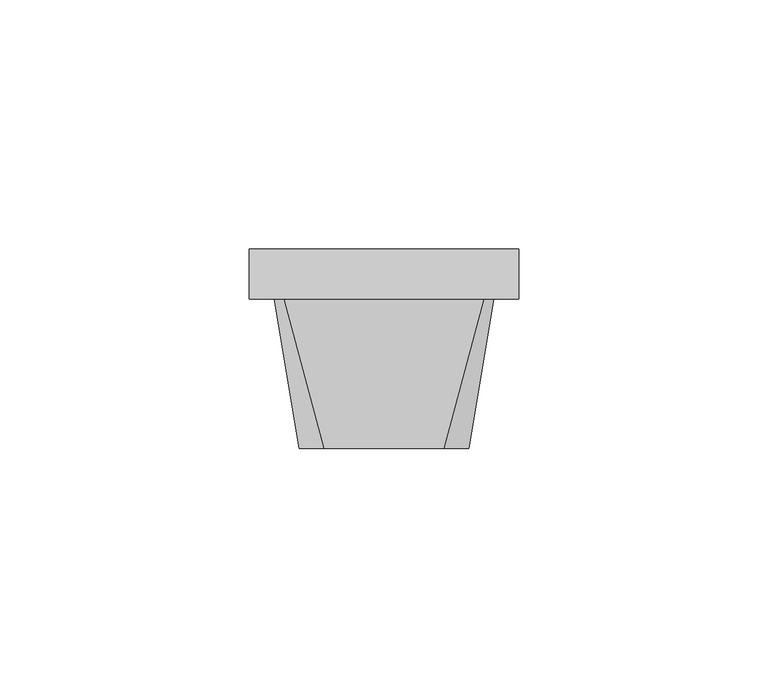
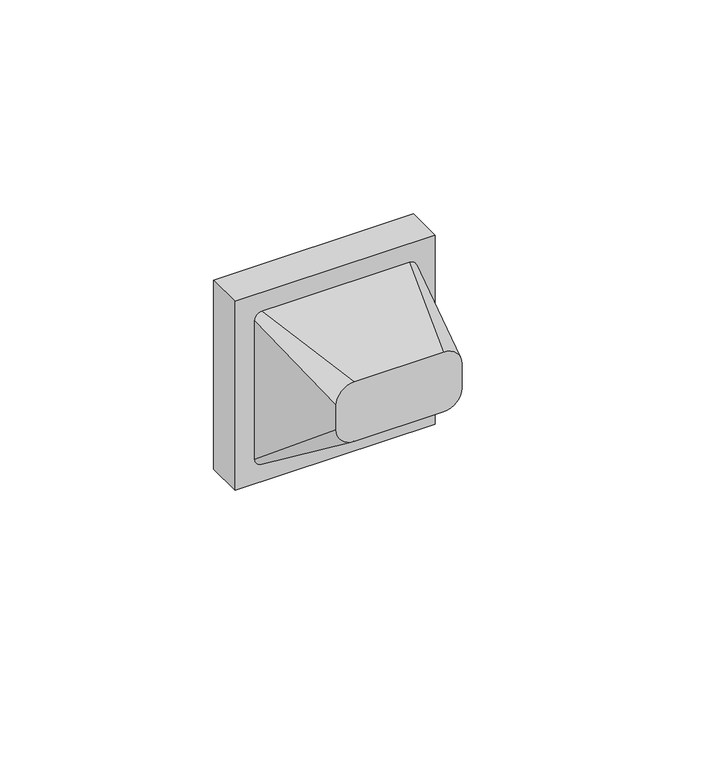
"""IFC4 building model written with IfcOpenShell, lengths in millimetres: proxy geometry, IEK_Brite_Механизм розетки 230В : USB A+A_РЮ10-1-БрА."""

from ifc_helpers import new_model, si_unit, frame, origin, place, context, project, spatial, polyline, circle_curve, outline, extrude, faceted_brep, source, transform, mapped, element, save
from ifc_brep_helpers import plane_surface, revolved_surface, spline_surface, advanced_brep


def electrical_fixtures_b7a49094(model_context):
    return source(origin(), model_context, "Body", "SolidModel", [
        extrude(outline(polyline([(14.9097787, 8.332744), (16.0629243, 8.332744), (16.0629243, 1.9), (14.9097787, 1.9), (14.9097787, 8.332744)])), frame((0.0, 0.0, -0.6072496), z_axis=(0.0, 0.0, 1.0), x_axis=(1.0, 0.0, 0.0)), (0.0, 0.0, 1.0), 0.9632194),
        extrude(outline(polyline([(12.3817288, 8.332744), (13.5348744, 8.332744), (13.5348744, 1.9), (12.3817288, 1.9), (12.3817288, 8.332744)])), frame((0.0, 0.0, -0.6072496), z_axis=(0.0, 0.0, 1.0), x_axis=(1.0, 0.0, 0.0)), (0.0, 0.0, 1.0), 0.9632194),
        extrude(outline(polyline([(9.9097787, 8.332744), (11.0629243, 8.332744), (11.0629243, 1.9), (9.9097787, 1.9), (9.9097787, 8.332744)])), frame((0.0, 0.0, -0.6072496), z_axis=(0.0, 0.0, 1.0), x_axis=(1.0, 0.0, 0.0)), (0.0, 0.0, 1.0), 0.9632194),
        extrude(outline(polyline([(7.3817288, 8.332744), (8.5348744, 8.332744), (8.5348744, 1.9), (7.3817288, 1.9), (7.3817288, 8.332744)])), frame((0.0, 0.0, -0.6072496), z_axis=(0.0, 0.0, 1.0), x_axis=(1.0, 0.0, 0.0)), (0.0, 0.0, 1.0), 0.9632194),
        extrude(outline(polyline([(17.5539374, 1.865818), (6.205143, 1.865818), (6.205143, 8.6493558), (17.5539374, 8.6493558), (17.5539374, 1.865818)])), frame((0.0, 0.0, -0.9635751), z_axis=(0.0, 0.0, 1.0), x_axis=(1.0, 0.0, 0.0)), (0.0, 0.0, 1.0), 1.1632949),
        extrude(outline(polyline([(-16.0629243, 8.332744), (-14.9097787, 8.332744), (-14.9097787, 1.9), (-16.0629243, 1.9), (-16.0629243, 8.332744)])), frame((0.0, 0.0, -0.6072496), z_axis=(0.0, 0.0, 1.0), x_axis=(1.0, 0.0, 0.0)), (0.0, 0.0, 1.0), 0.9632194),
        extrude(outline(polyline([(-13.5348744, 8.332744), (-12.3817288, 8.332744), (-12.3817288, 1.9), (-13.5348744, 1.9), (-13.5348744, 8.332744)])), frame((0.0, 0.0, -0.6072496), z_axis=(0.0, 0.0, 1.0), x_axis=(1.0, 0.0, 0.0)), (0.0, 0.0, 1.0), 0.9632194),
        extrude(outline(polyline([(-11.0629243, 8.332744), (-9.9097787, 8.332744), (-9.9097787, 1.9), (-11.0629243, 1.9), (-11.0629243, 8.332744)])), frame((0.0, 0.0, -0.6072496), z_axis=(0.0, 0.0, 1.0), x_axis=(1.0, 0.0, 0.0)), (0.0, 0.0, 1.0), 0.9632194),
        extrude(outline(polyline([(-8.5348744, 8.332744), (-7.3817288, 8.332744), (-7.3817288, 1.9), (-8.5348744, 1.9), (-8.5348744, 8.332744)])), frame((0.0, 0.0, -0.6072496), z_axis=(0.0, 0.0, 1.0), x_axis=(1.0, 0.0, 0.0)), (0.0, 0.0, 1.0), 0.9632194),
        extrude(outline(polyline([(-6.205143, 1.865818), (-17.5539374, 1.865818), (-17.5539374, 8.6493558), (-6.205143, 8.6493558), (-6.205143, 1.865818)])), frame((0.0, 0.0, -0.9635751), z_axis=(0.0, 0.0, 1.0), x_axis=(1.0, 0.0, 0.0)), (0.0, 0.0, 1.0), 1.1632949),
        faceted_brep([(-27.0, 10.0, 27.0), (27.0, 10.0, 27.0), (27.0, 10.0, -27.0), (-27.0, 10.0, -27.0), (18.7443645, 10.0, -3.1615677), (18.7443645, 10.0, 2.8384323), (4.7443645, 10.0, 2.8384323), (4.7443645, 10.0, -3.1615677), (-18.7443645, 10.0, 2.8384323), (-18.7443645, 10.0, -3.1615677), (-4.7443645, 10.0, -3.1615677), (-4.7443645, 10.0, 2.8384323), (-27.0, 0.0, 27.0), (-27.0, 0.0, -27.0), (27.0, 0.0, -27.0), (27.0, 0.0, 27.0), (18.7443645, 1.865818, 2.8384323), (18.7443645, 1.865818, -3.1615677), (4.7443645, 1.865818, -3.1615677), (4.7443645, 1.865818, 2.8384323), (-18.7443645, 1.865818, 2.8384323), (-4.7443645, 1.865818, 2.8384323), (-4.7443645, 1.865818, -3.1615677), (-18.7443645, 1.865818, -3.1615677)], [[[0, 1, 2, 3], [4, 5, 6, 7], [8, 9, 10, 11]], [[12, 13, 14, 15]], [[0, 3, 13, 12]], [[3, 2, 14, 13]], [[2, 1, 15, 14]], [[1, 0, 12, 15]], [[16, 17, 18, 19]], [[17, 16, 5, 4]], [[18, 17, 4, 7]], [[19, 18, 7, 6]], [[16, 19, 6, 5]], [[20, 21, 22, 23]], [[20, 23, 9, 8]], [[23, 22, 10, 9]], [[22, 21, 11, 10]], [[21, 20, 8, 11]]]),
        advanced_brep(
        [(-12.0, -30.0, 17.0), (-17.0, -30.0, 12.0), (-17.0, -30.0, 5.0), (-12.0, -30.0, 0.0), (12.0, -30.0, 0.0), (17.0, -30.0, 5.0), (17.0, -30.0, 12.0), (12.0, -30.0, 17.0), (-20.0, 0.0, 22.0), (20.0, 0.0, 22.0), (22.0, 0.0, 20.0), (22.0, 0.0, -20.0), (20.0, 0.0, -22.0), (-20.0, 0.0, -22.0), (-22.0, 0.0, -20.0), (-22.0, 0.0, 20.0), (-11.8753617, 0.0, 0.0), (-6.3904783, 0.0, 0.0), (-3.0105286, 0.0, 0.0), (3.0105286, 0.0, 0.0), (6.3904783, 0.0, 0.0), (11.8753617, 0.0, 0.0), (-1.7917908, 0.0, 19.3280847), (-1.7917908, 0.0, 16.8280847), (0.0, 0.0, 16.8280847), (1.7917908, 0.0, 16.8280847), (1.7917908, 0.0, 19.3280847), (0.0, 0.0, 19.3280847), (-1.7917908, 0.0, -19.3280847), (0.0, 0.0, -19.3280847), (1.7917908, 0.0, -19.3280847), (1.7917908, 0.0, -16.8280847), (0.0, 0.0, -16.8280847), (-1.7917908, 0.0, -16.8280847), (0.0, -3.6435209, -19.3280847), (-1.7917908, -3.6435209, -19.3280847), (-1.7917908, -7.0526118, -16.8280847), (0.0, -7.0526118, -16.8280847), (1.7917908, -7.0526118, -16.8280847), (1.7917908, -3.6435209, -19.3280847), (-11.8753617, -13.4962918, 0.0), (-6.3904783, -13.4962918, 0.0), (-3.0105286, -13.4962918, 0.0), (3.0105286, -13.4962918, 0.0), (6.3904783, -13.4962918, 0.0), (11.8753617, -13.4962918, 0.0), (-1.7917908, -13.4962918, 19.3280847), (0.0, -13.4962918, 19.3280847), (1.7917908, -13.4962918, 19.3280847), (1.7917908, -13.4962918, 16.8280847), (0.0, -13.4962918, 16.8280847), (-1.7917908, -13.4962918, 16.8280847)],
        [
            (0, 1, circle_curve(frame((-12.0, -30.0, 12.0), z_axis=(0.0, -1.0, 0.0), x_axis=(1.0, 0.0, 0.0)), 5.0)),
            (1, 2),
            (2, 3, circle_curve(frame((-12.0, -30.0, 5.0), z_axis=(0.0, -1.0, 0.0), x_axis=(1.0, 0.0, 0.0)), 5.0)),
            (3, 4),
            (4, 5, circle_curve(frame((12.0, -30.0, 5.0), z_axis=(0.0, -1.0, 0.0), x_axis=(1.0, 0.0, 0.0)), 5.0)),
            (5, 6),
            (6, 7, circle_curve(frame((12.0, -30.0, 12.0), z_axis=(0.0, -1.0, 0.0), x_axis=(1.0, 0.0, 0.0)), 5.0)),
            (7, 0),
            (8, 9),
            (9, 10, circle_curve(frame((20.0, 0.0, 20.0), z_axis=(0.0, 1.0, 0.0), x_axis=(1.0, 0.0, 0.0)), 2.0)),
            (10, 11),
            (11, 12, circle_curve(frame((20.0, 0.0, -20.0), z_axis=(0.0, 1.0, 0.0), x_axis=(1.0, 0.0, 0.0)), 2.0)),
            (12, 13),
            (13, 14, circle_curve(frame((-20.0, 0.0, -20.0), z_axis=(0.0, 1.0, 0.0), x_axis=(1.0, 0.0, 0.0)), 2.0)),
            (14, 15),
            (15, 8, circle_curve(frame((-20.0, 0.0, 20.0), z_axis=(0.0, 1.0, 0.0), x_axis=(1.0, 0.0, 0.0)), 2.0)),
            (16, 17, circle_curve(frame((-9.13292, 0.0, 0.0), z_axis=(0.0, -1.0, 0.0), x_axis=(1.0, 0.0, 0.0)), 2.7424417)),
            (17, 16, circle_curve(frame((-9.13292, 0.0, 0.0), z_axis=(0.0, -1.0, 0.0), x_axis=(1.0, 0.0, 0.0)), 2.7424417)),
            (18, 19, circle_curve(frame((0.0, 0.0, 0.0), z_axis=(0.0, -1.0, 0.0), x_axis=(1.0, 0.0, 0.0)), 3.0105286)),
            (19, 18, circle_curve(frame((0.0, 0.0, 0.0), z_axis=(0.0, -1.0, 0.0), x_axis=(1.0, 0.0, 0.0)), 3.0105286)),
            (20, 21, circle_curve(frame((9.13292, 0.0, 0.0), z_axis=(0.0, -1.0, 0.0), x_axis=(1.0, 0.0, 0.0)), 2.7424417)),
            (21, 20, circle_curve(frame((9.13292, 0.0, 0.0), z_axis=(0.0, -1.0, 0.0), x_axis=(1.0, 0.0, 0.0)), 2.7424417)),
            (22, 23),
            (23, 24),
            (24, 25),
            (25, 26),
            (26, 27),
            (27, 22),
            (28, 29),
            (29, 30),
            (30, 31),
            (31, 32),
            (32, 33),
            (33, 28),
            (7, 9),
            (8, 0),
            (6, 10),
            (5, 11),
            (4, 12),
            (3, 13),
            (34, 35),
            (35, 36),
            (36, 37),
            (37, 38),
            (38, 39),
            (39, 34),
            (2, 14),
            (1, 15),
            (40, 41, circle_curve(frame((-9.13292, -13.4962918, 0.0), z_axis=(0.0, 1.0, 0.0), x_axis=(1.0, 0.0, 0.0)), 2.7424417)),
            (41, 40, circle_curve(frame((-9.13292, -13.4962918, 0.0), z_axis=(0.0, 1.0, 0.0), x_axis=(1.0, 0.0, 0.0)), 2.7424417)),
            (42, 43, circle_curve(frame((0.0, -13.4962918, 0.0), z_axis=(0.0, 1.0, 0.0), x_axis=(1.0, 0.0, 0.0)), 3.0105286)),
            (43, 42, circle_curve(frame((0.0, -13.4962918, 0.0), z_axis=(0.0, 1.0, 0.0), x_axis=(1.0, 0.0, 0.0)), 3.0105286)),
            (44, 45, circle_curve(frame((9.13292, -13.4962918, 0.0), z_axis=(0.0, 1.0, 0.0), x_axis=(1.0, 0.0, 0.0)), 2.7424417)),
            (45, 44, circle_curve(frame((9.13292, -13.4962918, 0.0), z_axis=(0.0, 1.0, 0.0), x_axis=(1.0, 0.0, 0.0)), 2.7424417)),
            (46, 47),
            (47, 48),
            (48, 49),
            (49, 50),
            (50, 51),
            (51, 46),
            (41, 17),
            (16, 40),
            (43, 19),
            (18, 42),
            (45, 21),
            (20, 44),
            (51, 23),
            (22, 46),
            (50, 24),
            (49, 25),
            (48, 26),
            (47, 27),
            (28, 35),
            (34, 29),
            (39, 30),
            (38, 31),
            (37, 32),
            (36, 33),
        ],
        [
            plane_surface(frame((0.0, -30.0, 8.5), z_axis=(0.0, -1.0, 0.0), x_axis=(-1.0, 0.0, 0.0))),
            plane_surface(frame((0.0, 0.0, 0.0), z_axis=(0.0, 1.0, 0.0), x_axis=(-1.0, 0.0, 0.0))),
            plane_surface(frame((0.0, 0.0, 22.0), z_axis=(0.0, -0.16439898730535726, 0.9863939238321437), x_axis=(-1.0, 0.0, 0.0))),
            spline_surface(2, 1, [[(22.0, 0.0, 20.0), (17.0, -30.0, 12.0)], [(22.0, 0.0, 22.0), (17.0, -30.0, 17.0)], [(20.0, 0.0, 22.0), (12.0, -30.0, 17.0)]], [3, 3], [2, 2], [0.0, 1.0], [0.0, 1.0], weights=[[1.0, 1.0], [0.7071067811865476, 0.7071067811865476], [1.0, 1.0]]),
            plane_surface(frame((22.0, 0.0, 0.0), z_axis=(0.9863939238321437, -0.1643989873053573, 0.0), x_axis=(0.0, 0.0, 1.0))),
            spline_surface(2, 1, [[(20.0, 0.0, -22.0), (12.0, -30.0, 0.0)], [(22.0, 0.0, -22.0), (17.0, -30.0, 0.0)], [(22.0, 0.0, -20.0), (17.0, -30.0, 5.0)]], [3, 3], [2, 2], [0.0, 1.0], [0.0, 1.0], weights=[[1.0, 1.0], [0.7071067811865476, 0.7071067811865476], [1.0, 1.0]]),
            plane_surface(frame((0.0, 0.0, -22.0), z_axis=(0.0, -0.591363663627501, -0.8064049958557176), x_axis=(1.0, 0.0, 0.0))),
            spline_surface(2, 1, [[(-22.0, 0.0, -20.0), (-17.0, -30.0, 5.0)], [(-22.0, 0.0, -22.0), (-17.0, -30.0, 0.0)], [(-20.0, 0.0, -22.0), (-12.0, -30.0, 0.0)]], [3, 3], [2, 2], [0.0, 1.0], [0.0, 1.0], weights=[[1.0, 1.0], [0.7071067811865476, 0.7071067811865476], [1.0, 1.0]]),
            plane_surface(frame((-22.0, 0.0, 0.0), z_axis=(-0.9863939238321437, -0.1643989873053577, 0.0), x_axis=(0.0, 0.0, -1.0))),
            spline_surface(2, 1, [[(-20.0, 0.0, 22.0), (-12.0, -30.0, 17.0)], [(-22.0, 0.0, 22.0), (-17.0, -30.0, 17.0)], [(-22.0, 0.0, 20.0), (-17.0, -30.0, 12.0)]], [3, 3], [2, 2], [0.0, 1.0], [0.0, 1.0], weights=[[1.0, 1.0], [0.7071067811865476, 0.7071067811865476], [1.0, 1.0]]),
            plane_surface(frame((-6.3904783, -13.4962918, 0.0), z_axis=(0.0, 1.0, 0.0), x_axis=(0.0, 0.0, 1.0))),
            revolved_surface(polyline([(-6.3904783, -13.4962918, 0.0), (-6.3904783, 0.0, 0.0)]), (-9.13292, 0.0, 0.0), (0.0, -1.0, 0.0)),
            revolved_surface(polyline([(3.0105286, -13.4962918, 0.0), (3.0105286, 0.0, 0.0)]), (0.0, -2.0, 0.0), (0.0, -1.0, 0.0)),
            revolved_surface(polyline([(11.875361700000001, -13.4962918, 0.0), (11.875361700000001, 0.0, 0.0)]), (9.13292, -2.0, 0.0), (0.0, -1.0, 0.0)),
            plane_surface(frame((-1.7917908, -13.4962918, 19.3280847), z_axis=(1.0, 0.0, 0.0), x_axis=(0.0, 1.0, 0.0))),
            plane_surface(frame((-1.7917908, -13.4962918, 16.8280847), z_axis=(0.0, 0.0, 1.0), x_axis=(0.0, 1.0, 0.0))),
            plane_surface(frame((0.0, -13.4962918, 16.8280847), z_axis=(0.0, 0.0, 1.0), x_axis=(0.0, 1.0, 0.0))),
            plane_surface(frame((1.7917908, -13.4962918, 16.8280847), z_axis=(-1.0, 0.0, 0.0), x_axis=(0.0, 1.0, 0.0))),
            plane_surface(frame((1.7917908, -13.4962918, 19.3280847), z_axis=(0.0, 0.0, -1.0), x_axis=(0.0, 1.0, 0.0))),
            plane_surface(frame((0.0, -13.4962918, 19.3280847), z_axis=(0.0, 0.0, -1.0), x_axis=(0.0, 1.0, 0.0))),
            plane_surface(frame((-1.7917908, -13.4962918, -19.3280847), z_axis=(0.0, 0.0, 1.0), x_axis=(0.0, 1.0, 0.0))),
            plane_surface(frame((0.0, -13.4962918, -19.3280847), z_axis=(0.0, 0.0, 1.0), x_axis=(0.0, 1.0, 0.0))),
            plane_surface(frame((1.7917908, -13.4962918, -19.3280847), z_axis=(-1.0, 0.0, 0.0), x_axis=(0.0, 1.0, 0.0))),
            plane_surface(frame((1.7917908, -13.4962918, -16.8280847), z_axis=(0.0, 0.0, -1.0), x_axis=(0.0, 1.0, 0.0))),
            plane_surface(frame((0.0, -13.4962918, -16.8280847), z_axis=(0.0, 0.0, -1.0), x_axis=(0.0, 1.0, 0.0))),
            plane_surface(frame((-1.7917908, -13.4962918, -16.8280847), z_axis=(1.0, 0.0, 0.0), x_axis=(0.0, 1.0, 0.0))),
        ],
        [
            (0, [[1, 2, 3, 4, 5, 6, 7, 8]]),
            (1, [[9, 10, 11, 12, 13, 14, 15, 16], [17, 18], [19, 20], [21, 22], [23, 24, 25, 26, 27, 28], [29, 30, 31, 32, 33, 34]]),
            (2, [[-8, 35, -9, 36]]),
            (3, [[-7, 37, -10, -35]]),
            (4, [[-6, 38, -11, -37]]),
            (5, [[-5, 39, -12, -38]]),
            (6, [[-4, 40, -13, -39], [41, 42, 43, 44, 45, 46]]),
            (7, [[-3, 47, -14, -40]]),
            (8, [[-2, 48, -15, -47]]),
            (9, [[-1, -36, -16, -48]]),
            (10, [[49, 50]]),
            (10, [[51, 52]]),
            (10, [[53, 54]]),
            (10, [[55, 56, 57, 58, 59, 60]]),
            (11, [[-50, 61, -17, 62]]),
            (11, [[-49, -62, -18, -61]]),
            (12, [[-52, 63, -19, 64]]),
            (12, [[-51, -64, -20, -63]]),
            (13, [[-54, 65, -21, 66]]),
            (13, [[-53, -66, -22, -65]]),
            (14, [[-60, 67, -23, 68]]),
            (15, [[-59, 69, -24, -67]]),
            (16, [[-58, 70, -25, -69]]),
            (17, [[-57, 71, -26, -70]]),
            (18, [[-56, 72, -27, -71]]),
            (19, [[-55, -68, -28, -72]]),
            (20, [[73, -41, 74, -29]]),
            (21, [[-74, -46, 75, -30]]),
            (22, [[-75, -45, 76, -31]]),
            (23, [[-76, -44, 77, -32]]),
            (24, [[-77, -43, 78, -33]]),
            (25, [[-73, -34, -78, -42]]),
        ],
    ),
    ])


if __name__ == "__main__":
    model = new_model("IFC4")
    model_context = context("Model", 3, world=origin())
    ifc_project = project(units=[si_unit("LENGTHUNIT", "METRE", prefix="MILLI")], contexts=[model_context])
    site = spatial("IfcSite", under=ifc_project)
    building = spatial("IfcBuilding", under=site)
    placement = place(None, origin())
    electrical_fixtures_shape = electrical_fixtures_b7a49094(model_context)
    element("IfcBuildingElementProxy", 1, Name="IEK_Brite_Механизм розетки 230В : USB A+A_РЮ10-1-БрА", ObjectType="IEK_Brite_Механизм розетки 230В : USB A+A_РЮ10-1-БрА", at=placement, inside=building, context=model_context, shape_type="MappedRepresentation", body=[
        mapped(electrical_fixtures_shape, transform((0.0, 0.0, 0.0), x_axis=(1.0, 0.0, 0.0), y_axis=(0.0, 1.0, 0.0), z_axis=(0.0, 0.0, 1.0))),
    ])
    save(model, "model.ifc")
